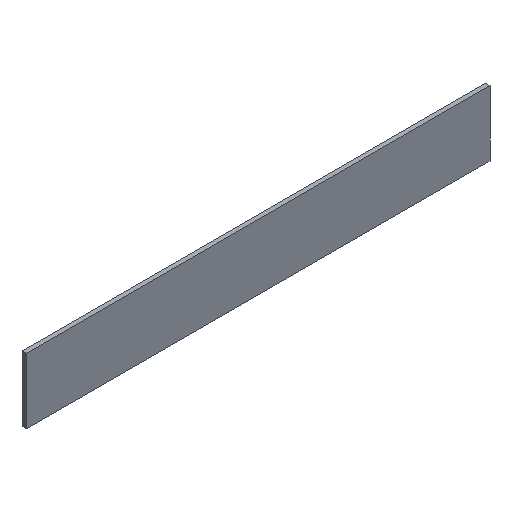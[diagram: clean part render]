
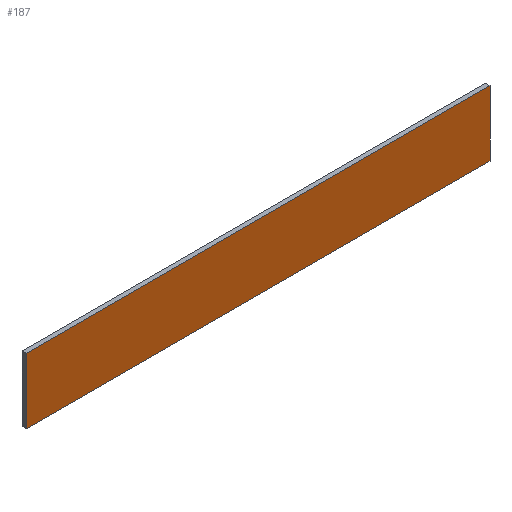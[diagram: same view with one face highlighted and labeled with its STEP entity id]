
A CAD part, isometric view. The second image highlights one B-rep face of the part: STEP entity #187.
In plain terms, the highlighted planar face has unit normal (0, -1, 0).
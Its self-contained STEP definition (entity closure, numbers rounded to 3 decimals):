
#61=CARTESIAN_POINT('Vertex',(422.337,0.,251.547)) ;
#66=CARTESIAN_POINT('Line Origine',(209.337,0.,251.547)) ;
#70=CARTESIAN_POINT('Vertex',(-3.663,0.,251.547)) ;
#97=CARTESIAN_POINT('Line Origine',(-3.663,0.,281.547)) ;
#101=CARTESIAN_POINT('Vertex',(-3.663,0.,311.547)) ;
#128=CARTESIAN_POINT('Line Origine',(209.337,0.,311.547)) ;
#132=CARTESIAN_POINT('Vertex',(422.337,0.,311.547)) ;
#159=CARTESIAN_POINT('Line Origine',(422.337,0.,281.547)) ;
#176=CARTESIAN_POINT('Axis2P3D Location',(0.,0.,0.)) ;
#67=DIRECTION('Vector Direction',(-1.,0.,0.)) ;
#98=DIRECTION('Vector Direction',(0.,0.,1.)) ;
#129=DIRECTION('Vector Direction',(1.,0.,0.)) ;
#160=DIRECTION('Vector Direction',(0.,0.,-1.)) ;
#177=DIRECTION('Axis2P3D Direction',(0.,1.,0.)) ;
#178=DIRECTION('Axis2P3D XDirection',(-1.,0.,0.)) ;
#179=AXIS2_PLACEMENT_3D('Plane Axis2P3D',#176,#177,#178) ;
#182=ORIENTED_EDGE('',*,*,#163,.F.) ;
#183=ORIENTED_EDGE('',*,*,#134,.F.) ;
#184=ORIENTED_EDGE('',*,*,#103,.F.) ;
#185=ORIENTED_EDGE('',*,*,#72,.F.) ;
#68=VECTOR('Line Direction',#67,1.) ;
#99=VECTOR('Line Direction',#98,1.) ;
#130=VECTOR('Line Direction',#129,1.) ;
#161=VECTOR('Line Direction',#160,1.) ;
#187=ADVANCED_FACE('Hauptk\X2\00F6\X0\rper',(#186),#180,.F.) ;
#72=EDGE_CURVE('',#62,#71,#69,.T.) ;
#103=EDGE_CURVE('',#71,#102,#100,.T.) ;
#134=EDGE_CURVE('',#102,#133,#131,.T.) ;
#163=EDGE_CURVE('',#133,#62,#162,.T.) ;
#181=EDGE_LOOP('',(#182,#183,#184,#185)) ;
#186=FACE_OUTER_BOUND('',#181,.T.) ;
#69=LINE('Line',#66,#68) ;
#100=LINE('Line',#97,#99) ;
#131=LINE('Line',#128,#130) ;
#162=LINE('Line',#159,#161) ;
#180=PLANE('',#179) ;
#62=VERTEX_POINT('',#61) ;
#71=VERTEX_POINT('',#70) ;
#102=VERTEX_POINT('',#101) ;
#133=VERTEX_POINT('',#132) ;
